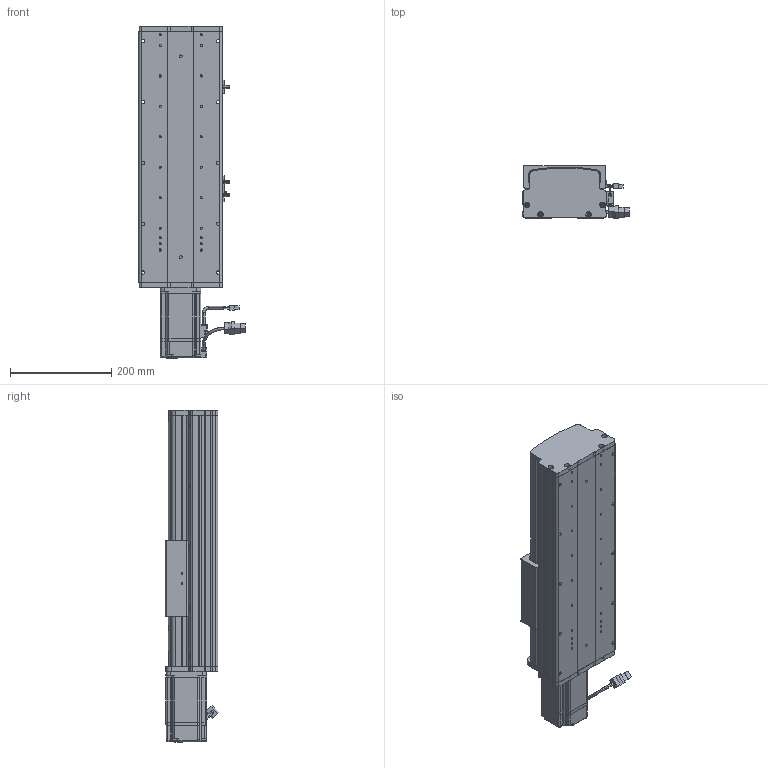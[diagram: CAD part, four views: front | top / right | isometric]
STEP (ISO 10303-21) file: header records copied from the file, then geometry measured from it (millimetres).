
FILE_DESCRIPTION (( 'STEP AP214' ), '1' );
FILE_NAME ('KSD165S-S200-MN-CM.STEP', '2017-08-07T08:03:55', ( '微软用户' ), ( '微软中国' ), 'SwSTEP 2.0', 'SolidWorks 2014', '' );
FILE_SCHEMA (( 'AUTOMOTIVE_DESIGN' ));
Length unit declared in the file: millimetre
Products named in the file (12): KSD165S-S200-MN-CM; KSD165模组-防尘盖1-200行程-直连不带电机座; KSD165模组-直连不带电机座电机连接板; KSD165模组底板-200行程-直连不带电机座; KSD165耀郪-佪裝-滅袉菜-3 -; ECMA-CX0807ES; C44ㄜ1912WP; 覜茼え68遵圉猾敕; U倰嫖萇假蚾璃; U倰嫖萇EEㄜSX672; KSD165耀郪-綴傷啣1; KSD165模组-丝杆滑动座-最新版
Assembly tree (15 placements, depth 2):
  KSD165S-S200-MN-CM
    KSD165模组-丝杆滑动座-最新版
    KSD165耀郪-綴傷啣1
    U倰嫖萇EEㄜSX672  x3
    U倰嫖萇假蚾璃  x3
    覜茼え68遵圉猾敕
    C44ㄜ1912WP
    ECMA-CX0807ES
    KSD165耀郪-佪裝-滅袉菜-3 -
    KSD165模组底板-200行程-直连不带电机座
    KSD165模组-直连不带电机座电机连接板
    KSD165模组-防尘盖1-200行程-直连不带电机座
Bounding box: 209.77 x 105.74 x 654.3 mm (x, y, z)
Volume: 4250579.5 mm3; surface area: 905963.3 mm2
Topology: 16 solids, 16 shells, 1565 faces, 4298 edges, 2760 vertices
Faces by surface type: cylinder 741, plane 655, cone 106, bspline 63
Entity records: 59189 total; most frequent: CARTESIAN_POINT 17448, ORIENTED_EDGE 7272, DIRECTION 6680, EDGE_CURVE 3636, AXIS2_PLACEMENT_3D 2445, VERTEX_POINT 2352, VECTOR 1790, LINE 1790
